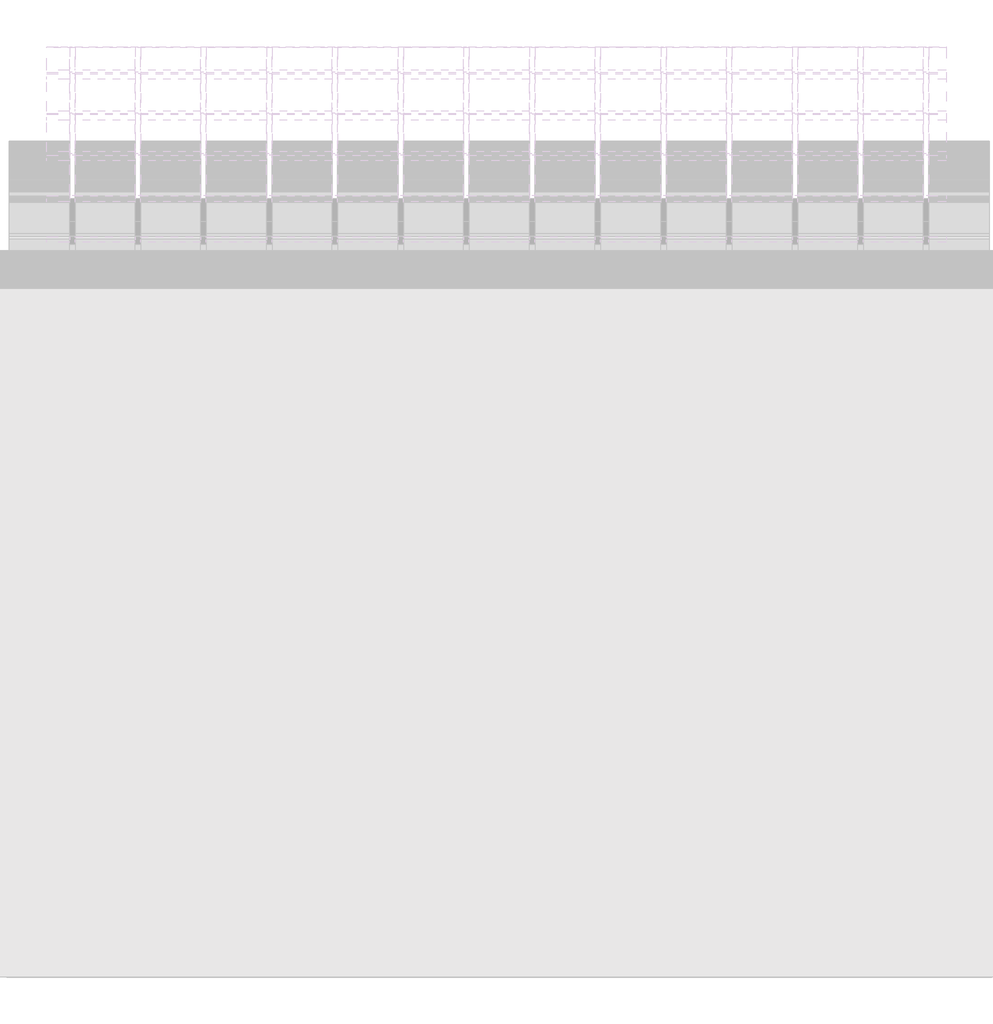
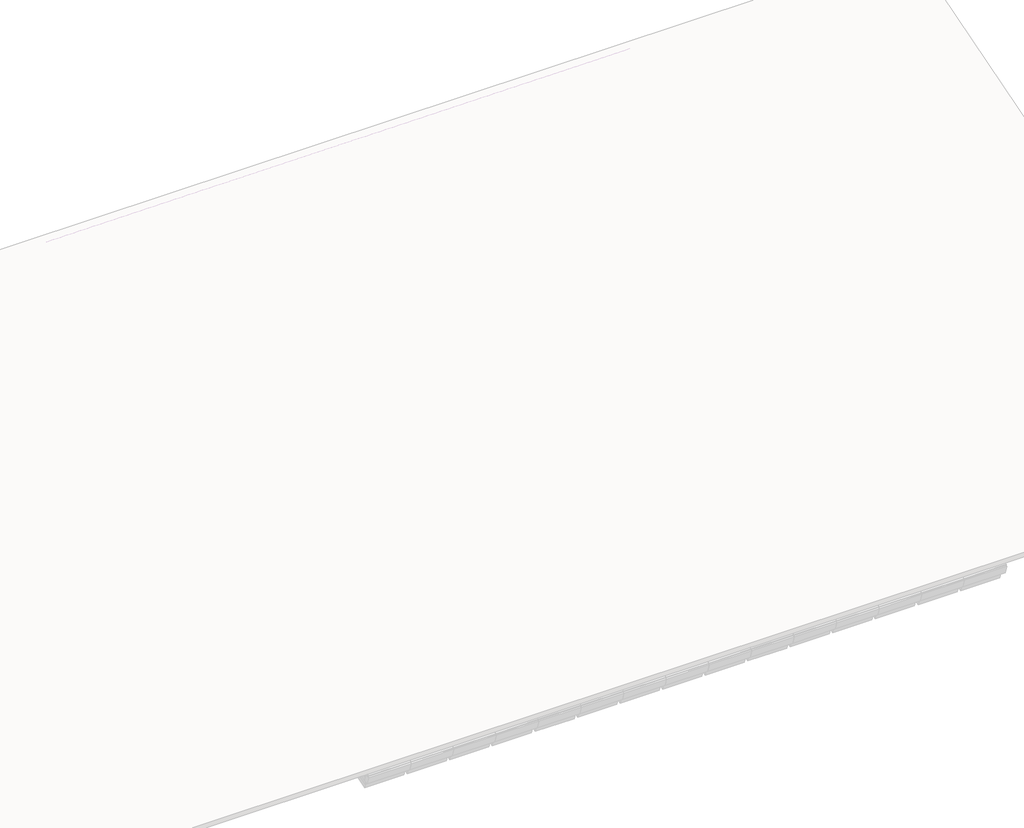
# One storey, part 45 of 57: 88 members, 36 plates.
"""IFC4 building model written with IfcOpenShell, lengths in millimetres."""

from ifc_helpers import new_model, si_unit, origin, place, context, project, spatial, transform, mapped, element, save
from components import rectangular_mullion_59984080, rectangular_mullion_2d2423ea, rectangular_mullion_caibro_e4384bba, rectangular_mullion_caibro_0993a3cf, rectangular_mullion_caibro_9bd7bc61, empty_system_panel_vazio_178faf58, empty_system_panel_vazio_2c78850d

model = new_model("IFC4")

# Units and contexts
model_context = context("Model", 3, world=origin())
ifc_project = project(units=[si_unit("LENGTHUNIT", "METRE", prefix="MILLI")], contexts=[model_context])

# Site, building, storey
site = spatial("IfcSite", under=ifc_project)
building = spatial("IfcBuilding", under=site)
storey = spatial("IfcBuildingStorey", under=building, Name="Nível 2", Elevation=4100.0)

# Members
placement = place(None, origin())
rectangular_mullion_shape = rectangular_mullion_59984080(model_context)
element("IfcMember", 1, ObjectType="Rectangular Mullion : Ripa", at=placement, inside=storey, context=model_context, shape_type="MappedRepresentation", body=[
    mapped(rectangular_mullion_shape, transform((34017.6374991, 8162.5832694, 3598.8241594), x_axis=(0.0, 0.9578262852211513, 0.2873478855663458), y_axis=(0.0, 0.2873478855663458, -0.9578262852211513), z_axis=(-1.0, 0.0, 0.0))),
])
element("IfcMember", 2, ObjectType="Rectangular Mullion : Ripa", at=placement, inside=storey, context=model_context, shape_type="MappedRepresentation", body=[
    mapped(rectangular_mullion_shape, transform((34614.6922555, 8162.5832694, 3598.8241594), x_axis=(0.0, 0.9578262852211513, 0.2873478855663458), y_axis=(0.0, 0.2873478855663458, -0.9578262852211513), z_axis=(-1.0, 0.0, 0.0))),
])
element("IfcMember", 3, ObjectType="Rectangular Mullion : Ripa", at=placement, inside=storey, context=model_context, shape_type="MappedRepresentation", body=[
    mapped(rectangular_mullion_shape, transform((35211.747012, 8162.5832694, 3598.8241594), x_axis=(0.0, 0.9578262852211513, 0.2873478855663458), y_axis=(0.0, 0.2873478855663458, -0.9578262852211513), z_axis=(-1.0, 0.0, 0.0))),
])
element("IfcMember", 4, ObjectType="Rectangular Mullion : Ripa", at=placement, inside=storey, context=model_context, shape_type="MappedRepresentation", body=[
    mapped(rectangular_mullion_shape, transform((35808.8017684, 8162.5832694, 3598.8241594), x_axis=(0.0, 0.9578262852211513, 0.2873478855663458), y_axis=(0.0, 0.2873478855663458, -0.9578262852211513), z_axis=(-1.0, 0.0, 0.0))),
])
element("IfcMember", 5, ObjectType="Rectangular Mullion : Ripa", at=placement, inside=storey, context=model_context, shape_type="MappedRepresentation", body=[
    mapped(rectangular_mullion_shape, transform((34017.6374991, 8532.7605281, 3709.877337), x_axis=(0.0, 0.9578262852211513, 0.2873478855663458), y_axis=(0.0, 0.2873478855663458, -0.9578262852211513), z_axis=(-1.0, 0.0, 0.0))),
])
element("IfcMember", 6, ObjectType="Rectangular Mullion : Ripa", at=placement, inside=storey, context=model_context, shape_type="MappedRepresentation", body=[
    mapped(rectangular_mullion_shape, transform((34614.6922555, 8532.7605281, 3709.877337), x_axis=(0.0, 0.9578262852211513, 0.2873478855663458), y_axis=(0.0, 0.2873478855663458, -0.9578262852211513), z_axis=(-1.0, 0.0, 0.0))),
])
element("IfcMember", 7, ObjectType="Rectangular Mullion : Ripa", at=placement, inside=storey, context=model_context, shape_type="MappedRepresentation", body=[
    mapped(rectangular_mullion_shape, transform((35211.747012, 8532.7605281, 3709.877337), x_axis=(0.0, 0.9578262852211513, 0.2873478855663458), y_axis=(0.0, 0.2873478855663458, -0.9578262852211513), z_axis=(-1.0, 0.0, 0.0))),
])
element("IfcMember", 8, ObjectType="Rectangular Mullion : Ripa", at=placement, inside=storey, context=model_context, shape_type="MappedRepresentation", body=[
    mapped(rectangular_mullion_shape, transform((35808.8017684, 8532.7605281, 3709.877337), x_axis=(0.0, 0.9578262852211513, 0.2873478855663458), y_axis=(0.0, 0.2873478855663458, -0.9578262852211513), z_axis=(-1.0, 0.0, 0.0))),
])
element("IfcMember", 9, ObjectType="Rectangular Mullion : Ripa", at=placement, inside=storey, context=model_context, shape_type="MappedRepresentation", body=[
    mapped(rectangular_mullion_shape, transform((34017.6374991, 8902.9377868, 3820.9305146), x_axis=(0.0, 0.9578262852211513, 0.2873478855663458), y_axis=(0.0, 0.2873478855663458, -0.9578262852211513), z_axis=(-1.0, 0.0, 0.0))),
])
element("IfcMember", 10, ObjectType="Rectangular Mullion : Ripa", at=placement, inside=storey, context=model_context, shape_type="MappedRepresentation", body=[
    mapped(rectangular_mullion_shape, transform((34614.6922555, 8902.9377868, 3820.9305146), x_axis=(0.0, 0.9578262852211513, 0.2873478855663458), y_axis=(0.0, 0.2873478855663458, -0.9578262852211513), z_axis=(-1.0, 0.0, 0.0))),
])
element("IfcMember", 11, ObjectType="Rectangular Mullion : Ripa", at=placement, inside=storey, context=model_context, shape_type="MappedRepresentation", body=[
    mapped(rectangular_mullion_shape, transform((35211.747012, 8902.9377868, 3820.9305146), x_axis=(0.0, 0.9578262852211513, 0.2873478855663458), y_axis=(0.0, 0.2873478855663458, -0.9578262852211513), z_axis=(-1.0, 0.0, 0.0))),
])
element("IfcMember", 12, ObjectType="Rectangular Mullion : Ripa", at=placement, inside=storey, context=model_context, shape_type="MappedRepresentation", body=[
    mapped(rectangular_mullion_shape, transform((35808.8017684, 8902.9377868, 3820.9305146), x_axis=(0.0, 0.9578262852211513, 0.2873478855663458), y_axis=(0.0, 0.2873478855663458, -0.9578262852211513), z_axis=(-1.0, 0.0, 0.0))),
])
element("IfcMember", 13, ObjectType="Rectangular Mullion : Ripa", at=placement, inside=storey, context=model_context, shape_type="MappedRepresentation", body=[
    mapped(rectangular_mullion_shape, transform((34017.6374991, 9273.1150454, 3931.9836922), x_axis=(0.0, 0.9578262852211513, 0.2873478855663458), y_axis=(0.0, 0.2873478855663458, -0.9578262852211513), z_axis=(-1.0, 0.0, 0.0))),
])
element("IfcMember", 14, ObjectType="Rectangular Mullion : Ripa", at=placement, inside=storey, context=model_context, shape_type="MappedRepresentation", body=[
    mapped(rectangular_mullion_shape, transform((34614.6922555, 9273.1150454, 3931.9836922), x_axis=(0.0, 0.9578262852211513, 0.2873478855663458), y_axis=(0.0, 0.2873478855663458, -0.9578262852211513), z_axis=(-1.0, 0.0, 0.0))),
])
element("IfcMember", 15, ObjectType="Rectangular Mullion : Ripa", at=placement, inside=storey, context=model_context, shape_type="MappedRepresentation", body=[
    mapped(rectangular_mullion_shape, transform((35211.747012, 9273.1150454, 3931.9836922), x_axis=(0.0, 0.9578262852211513, 0.2873478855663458), y_axis=(0.0, 0.2873478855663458, -0.9578262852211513), z_axis=(-1.0, 0.0, 0.0))),
])
element("IfcMember", 16, ObjectType="Rectangular Mullion : Ripa", at=placement, inside=storey, context=model_context, shape_type="MappedRepresentation", body=[
    mapped(rectangular_mullion_shape, transform((35808.8017684, 9273.1150454, 3931.9836922), x_axis=(0.0, 0.9578262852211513, 0.2873478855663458), y_axis=(0.0, 0.2873478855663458, -0.9578262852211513), z_axis=(-1.0, 0.0, 0.0))),
])
element("IfcMember", 17, ObjectType="Rectangular Mullion : Ripa", at=placement, inside=storey, context=model_context, shape_type="MappedRepresentation", body=[
    mapped(rectangular_mullion_shape, transform((34017.6374991, 9643.2923041, 4043.0368698), x_axis=(0.0, 0.9578262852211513, 0.2873478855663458), y_axis=(0.0, 0.2873478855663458, -0.9578262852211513), z_axis=(-1.0, 0.0, 0.0))),
])
element("IfcMember", 18, ObjectType="Rectangular Mullion : Ripa", at=placement, inside=storey, context=model_context, shape_type="MappedRepresentation", body=[
    mapped(rectangular_mullion_shape, transform((34614.6922555, 9643.2923041, 4043.0368698), x_axis=(0.0, 0.9578262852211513, 0.2873478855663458), y_axis=(0.0, 0.2873478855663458, -0.9578262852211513), z_axis=(-1.0, 0.0, 0.0))),
])
element("IfcMember", 19, ObjectType="Rectangular Mullion : Ripa", at=placement, inside=storey, context=model_context, shape_type="MappedRepresentation", body=[
    mapped(rectangular_mullion_shape, transform((35211.747012, 9643.2923041, 4043.0368698), x_axis=(0.0, 0.9578262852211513, 0.2873478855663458), y_axis=(0.0, 0.2873478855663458, -0.9578262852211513), z_axis=(-1.0, 0.0, 0.0))),
])
element("IfcMember", 20, ObjectType="Rectangular Mullion : Ripa", at=placement, inside=storey, context=model_context, shape_type="MappedRepresentation", body=[
    mapped(rectangular_mullion_shape, transform((35808.8017684, 9643.2923041, 4043.0368698), x_axis=(0.0, 0.9578262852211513, 0.2873478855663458), y_axis=(0.0, 0.2873478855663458, -0.9578262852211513), z_axis=(-1.0, 0.0, 0.0))),
])
element("IfcMember", 21, ObjectType="Rectangular Mullion : Ripa", at=placement, inside=storey, context=model_context, shape_type="MappedRepresentation", body=[
    mapped(rectangular_mullion_shape, transform((32226.4732298, 10013.4695628, 4154.0900474), x_axis=(0.0, 0.9578262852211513, 0.2873478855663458), y_axis=(0.0, 0.2873478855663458, -0.9578262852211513), z_axis=(-1.0, 0.0, 0.0))),
])
element("IfcMember", 22, ObjectType="Rectangular Mullion : Ripa", at=placement, inside=storey, context=model_context, shape_type="MappedRepresentation", body=[
    mapped(rectangular_mullion_shape, transform((32823.5279863, 10013.4695628, 4154.0900474), x_axis=(0.0, 0.9578262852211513, 0.2873478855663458), y_axis=(0.0, 0.2873478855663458, -0.9578262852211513), z_axis=(-1.0, 0.0, 0.0))),
])
element("IfcMember", 23, ObjectType="Rectangular Mullion : Ripa", at=placement, inside=storey, context=model_context, shape_type="MappedRepresentation", body=[
    mapped(rectangular_mullion_shape, transform((33420.5827427, 10013.4695628, 4154.0900474), x_axis=(0.0, 0.9578262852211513, 0.2873478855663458), y_axis=(0.0, 0.2873478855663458, -0.9578262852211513), z_axis=(-1.0, 0.0, 0.0))),
])
element("IfcMember", 24, ObjectType="Rectangular Mullion : Ripa", at=placement, inside=storey, context=model_context, shape_type="MappedRepresentation", body=[
    mapped(rectangular_mullion_shape, transform((32226.4732298, 10383.6468214, 4265.143225), x_axis=(0.0, 0.9578262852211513, 0.2873478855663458), y_axis=(0.0, 0.2873478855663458, -0.9578262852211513), z_axis=(-1.0, 0.0, 0.0))),
])
element("IfcMember", 25, ObjectType="Rectangular Mullion : Ripa", at=placement, inside=storey, context=model_context, shape_type="MappedRepresentation", body=[
    mapped(rectangular_mullion_shape, transform((32823.5279863, 10383.6468214, 4265.143225), x_axis=(0.0, 0.9578262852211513, 0.2873478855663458), y_axis=(0.0, 0.2873478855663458, -0.9578262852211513), z_axis=(-1.0, 0.0, 0.0))),
])
element("IfcMember", 26, ObjectType="Rectangular Mullion : Ripa", at=placement, inside=storey, context=model_context, shape_type="MappedRepresentation", body=[
    mapped(rectangular_mullion_shape, transform((33420.5827427, 10383.6468214, 4265.143225), x_axis=(0.0, 0.9578262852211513, 0.2873478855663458), y_axis=(0.0, 0.2873478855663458, -0.9578262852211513), z_axis=(-1.0, 0.0, 0.0))),
])
element("IfcMember", 27, ObjectType="Rectangular Mullion : Ripa", at=placement, inside=storey, context=model_context, shape_type="MappedRepresentation", body=[
    mapped(rectangular_mullion_shape, transform((32226.4732298, 10753.8240801, 4376.1964026), x_axis=(0.0, 0.9578262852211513, 0.2873478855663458), y_axis=(0.0, 0.2873478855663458, -0.9578262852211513), z_axis=(-1.0, 0.0, 0.0))),
])
element("IfcMember", 28, ObjectType="Rectangular Mullion : Ripa", at=placement, inside=storey, context=model_context, shape_type="MappedRepresentation", body=[
    mapped(rectangular_mullion_shape, transform((32823.5279863, 10753.8240801, 4376.1964026), x_axis=(0.0, 0.9578262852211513, 0.2873478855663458), y_axis=(0.0, 0.2873478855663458, -0.9578262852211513), z_axis=(-1.0, 0.0, 0.0))),
])
element("IfcMember", 29, ObjectType="Rectangular Mullion : Ripa", at=placement, inside=storey, context=model_context, shape_type="MappedRepresentation", body=[
    mapped(rectangular_mullion_shape, transform((33420.5827427, 10753.8240801, 4376.1964026), x_axis=(0.0, 0.9578262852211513, 0.2873478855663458), y_axis=(0.0, 0.2873478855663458, -0.9578262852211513), z_axis=(-1.0, 0.0, 0.0))),
])
element("IfcMember", 30, ObjectType="Rectangular Mullion : Ripa", at=placement, inside=storey, context=model_context, shape_type="MappedRepresentation", body=[
    mapped(rectangular_mullion_shape, transform((32226.4732298, 11124.0013387, 4487.2495802), x_axis=(0.0, 0.9578262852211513, 0.2873478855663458), y_axis=(0.0, 0.2873478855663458, -0.9578262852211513), z_axis=(-1.0, 0.0, 0.0))),
])
element("IfcMember", 31, ObjectType="Rectangular Mullion : Ripa", at=placement, inside=storey, context=model_context, shape_type="MappedRepresentation", body=[
    mapped(rectangular_mullion_shape, transform((32823.5279863, 11124.0013387, 4487.2495802), x_axis=(0.0, 0.9578262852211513, 0.2873478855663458), y_axis=(0.0, 0.2873478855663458, -0.9578262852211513), z_axis=(-1.0, 0.0, 0.0))),
])
element("IfcMember", 32, ObjectType="Rectangular Mullion : Ripa", at=placement, inside=storey, context=model_context, shape_type="MappedRepresentation", body=[
    mapped(rectangular_mullion_shape, transform((33420.5827427, 11124.0013387, 4487.2495802), x_axis=(0.0, 0.9578262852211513, 0.2873478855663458), y_axis=(0.0, 0.2873478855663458, -0.9578262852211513), z_axis=(-1.0, 0.0, 0.0))),
])
element("IfcMember", 33, ObjectType="Rectangular Mullion : Ripa", at=placement, inside=storey, context=model_context, shape_type="MappedRepresentation", body=[
    mapped(rectangular_mullion_shape, transform((32226.4732298, 11494.1785974, 4598.3027578), x_axis=(0.0, 0.9578262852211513, 0.2873478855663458), y_axis=(0.0, 0.2873478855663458, -0.9578262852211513), z_axis=(-1.0, 0.0, 0.0))),
])
element("IfcMember", 34, ObjectType="Rectangular Mullion : Ripa", at=placement, inside=storey, context=model_context, shape_type="MappedRepresentation", body=[
    mapped(rectangular_mullion_shape, transform((32823.5279863, 11494.1785974, 4598.3027578), x_axis=(0.0, 0.9578262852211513, 0.2873478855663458), y_axis=(0.0, 0.2873478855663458, -0.9578262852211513), z_axis=(-1.0, 0.0, 0.0))),
])
element("IfcMember", 35, ObjectType="Rectangular Mullion : Ripa", at=placement, inside=storey, context=model_context, shape_type="MappedRepresentation", body=[
    mapped(rectangular_mullion_shape, transform((33420.5827427, 11494.1785974, 4598.3027578), x_axis=(0.0, 0.9578262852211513, 0.2873478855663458), y_axis=(0.0, 0.2873478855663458, -0.9578262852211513), z_axis=(-1.0, 0.0, 0.0))),
])
element("IfcMember", 36, ObjectType="Rectangular Mullion : Ripa", at=placement, inside=storey, context=model_context, shape_type="MappedRepresentation", body=[
    mapped(rectangular_mullion_shape, transform((32226.4732298, 11864.3558561, 4709.3559354), x_axis=(0.0, 0.9578262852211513, 0.2873478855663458), y_axis=(0.0, 0.2873478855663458, -0.9578262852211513), z_axis=(-1.0, 0.0, 0.0))),
])
element("IfcMember", 37, ObjectType="Rectangular Mullion : Ripa", at=placement, inside=storey, context=model_context, shape_type="MappedRepresentation", body=[
    mapped(rectangular_mullion_shape, transform((32823.5279863, 11864.3558561, 4709.3559354), x_axis=(0.0, 0.9578262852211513, 0.2873478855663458), y_axis=(0.0, 0.2873478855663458, -0.9578262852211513), z_axis=(-1.0, 0.0, 0.0))),
])
element("IfcMember", 38, ObjectType="Rectangular Mullion : Ripa", at=placement, inside=storey, context=model_context, shape_type="MappedRepresentation", body=[
    mapped(rectangular_mullion_shape, transform((33420.5827427, 11864.3558561, 4709.3559354), x_axis=(0.0, 0.9578262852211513, 0.2873478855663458), y_axis=(0.0, 0.2873478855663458, -0.9578262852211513), z_axis=(-1.0, 0.0, 0.0))),
])
rectangular_mullion_2_shape = rectangular_mullion_2d2423ea(model_context)
element("IfcMember", 39, ObjectType="Rectangular Mullion : Terça", at=placement, inside=storey, context=model_context, shape_type="MappedRepresentation", body=[
    mapped(rectangular_mullion_2_shape, transform((34017.6374991, 9159.0196393, 3835.1132313), x_axis=(0.0, 0.9578262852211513, 0.2873478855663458), y_axis=(0.0, 0.2873478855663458, -0.9578262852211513), z_axis=(-1.0, 0.0, 0.0))),
])
element("IfcMember", 40, ObjectType="Rectangular Mullion : Terça", at=placement, inside=storey, context=model_context, shape_type="MappedRepresentation", body=[
    mapped(rectangular_mullion_2_shape, transform((34614.6922555, 9159.0196393, 3835.1132313), x_axis=(0.0, 0.9578262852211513, 0.2873478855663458), y_axis=(0.0, 0.2873478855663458, -0.9578262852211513), z_axis=(-1.0, 0.0, 0.0))),
])
element("IfcMember", 41, ObjectType="Rectangular Mullion : Terça", at=placement, inside=storey, context=model_context, shape_type="MappedRepresentation", body=[
    mapped(rectangular_mullion_2_shape, transform((35211.747012, 9159.0196393, 3835.1132313), x_axis=(0.0, 0.9578262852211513, 0.2873478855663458), y_axis=(0.0, 0.2873478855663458, -0.9578262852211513), z_axis=(-1.0, 0.0, 0.0))),
])
element("IfcMember", 42, ObjectType="Rectangular Mullion : Terça", at=placement, inside=storey, context=model_context, shape_type="MappedRepresentation", body=[
    mapped(rectangular_mullion_2_shape, transform((35808.8017684, 9159.0196393, 3835.1132313), x_axis=(0.0, 0.9578262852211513, 0.2873478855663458), y_axis=(0.0, 0.2873478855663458, -0.9578262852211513), z_axis=(-1.0, 0.0, 0.0))),
])
element("IfcMember", 43, ObjectType="Rectangular Mullion : Terça", at=placement, inside=storey, context=model_context, shape_type="MappedRepresentation", body=[
    mapped(rectangular_mullion_2_shape, transform((32226.4732298, 11285.144311, 4472.9506328), x_axis=(0.0, 0.9578262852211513, 0.2873478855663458), y_axis=(0.0, 0.2873478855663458, -0.9578262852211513), z_axis=(-1.0, 0.0, 0.0))),
])
element("IfcMember", 44, ObjectType="Rectangular Mullion : Terça", at=placement, inside=storey, context=model_context, shape_type="MappedRepresentation", body=[
    mapped(rectangular_mullion_2_shape, transform((32823.5279863, 11285.144311, 4472.9506328), x_axis=(0.0, 0.9578262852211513, 0.2873478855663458), y_axis=(0.0, 0.2873478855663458, -0.9578262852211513), z_axis=(-1.0, 0.0, 0.0))),
])
rectangular_mullion_caibro_shape = rectangular_mullion_caibro_e4384bba(model_context)
element("IfcMember", 45, ObjectType="Rectangular Mullion : Caibro", at=placement, inside=storey, context=model_context, shape_type="MappedRepresentation", body=[
    mapped(rectangular_mullion_caibro_shape, transform((32201.4732298, 10013.4695628, 4154.0900474), x_axis=(1.0, 0.0, 0.0), y_axis=(0.0, 0.287347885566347, -0.9578262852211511), z_axis=(0.0, 0.9578262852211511, 0.287347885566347))),
])
element("IfcMember", 46, ObjectType="Rectangular Mullion : Caibro", at=placement, inside=storey, context=model_context, shape_type="MappedRepresentation", body=[
    mapped(rectangular_mullion_caibro_shape, transform((32201.4732298, 10383.6468214, 4265.143225), x_axis=(1.0, 0.0, 0.0), y_axis=(0.0, 0.28734788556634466, -0.9578262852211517), z_axis=(0.0, 0.9578262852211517, 0.28734788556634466))),
])
element("IfcMember", 47, ObjectType="Rectangular Mullion : Caibro", at=placement, inside=storey, context=model_context, shape_type="MappedRepresentation", body=[
    mapped(rectangular_mullion_caibro_shape, transform((32201.4732298, 10753.8240801, 4376.1964026), x_axis=(1.0, 0.0, 0.0), y_axis=(0.0, 0.28734788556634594, -0.9578262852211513), z_axis=(0.0, 0.9578262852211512, 0.2873478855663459))),
])
element("IfcMember", 48, ObjectType="Rectangular Mullion : Caibro", at=placement, inside=storey, context=model_context, shape_type="MappedRepresentation", body=[
    mapped(rectangular_mullion_caibro_shape, transform((32201.4732298, 11124.0013387, 4487.2495802), x_axis=(1.0, 0.0, 0.0), y_axis=(0.0, 0.28734788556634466, -0.9578262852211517), z_axis=(0.0, 0.9578262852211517, 0.28734788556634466))),
])
element("IfcMember", 49, ObjectType="Rectangular Mullion : Caibro", at=placement, inside=storey, context=model_context, shape_type="MappedRepresentation", body=[
    mapped(rectangular_mullion_caibro_shape, transform((32201.4732298, 11494.1785974, 4598.3027578), x_axis=(1.0, 0.0, 0.0), y_axis=(0.0, 0.287347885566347, -0.9578262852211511), z_axis=(0.0, 0.9578262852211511, 0.287347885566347))),
])
element("IfcMember", 50, ObjectType="Rectangular Mullion : Caibro", at=placement, inside=storey, context=model_context, shape_type="MappedRepresentation", body=[
    mapped(rectangular_mullion_caibro_shape, transform((32201.4732298, 11864.3558561, 4709.3559354), x_axis=(1.0, 0.0, 0.0), y_axis=(0.0, 0.28734788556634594, -0.9578262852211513), z_axis=(0.0, 0.9578262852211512, 0.2873478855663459))),
])
element("IfcMember", 51, ObjectType="Rectangular Mullion : Caibro", at=placement, inside=storey, context=model_context, shape_type="MappedRepresentation", body=[
    mapped(rectangular_mullion_caibro_shape, transform((32798.5279863, 10013.4695628, 4154.0900474), x_axis=(1.0, 0.0, 0.0), y_axis=(0.0, 0.287347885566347, -0.9578262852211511), z_axis=(0.0, 0.9578262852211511, 0.287347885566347))),
])
element("IfcMember", 52, ObjectType="Rectangular Mullion : Caibro", at=placement, inside=storey, context=model_context, shape_type="MappedRepresentation", body=[
    mapped(rectangular_mullion_caibro_shape, transform((32798.5279863, 10383.6468214, 4265.143225), x_axis=(1.0, 0.0, 0.0), y_axis=(0.0, 0.28734788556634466, -0.9578262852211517), z_axis=(0.0, 0.9578262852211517, 0.28734788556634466))),
])
element("IfcMember", 53, ObjectType="Rectangular Mullion : Caibro", at=placement, inside=storey, context=model_context, shape_type="MappedRepresentation", body=[
    mapped(rectangular_mullion_caibro_shape, transform((32798.5279863, 10753.8240801, 4376.1964026), x_axis=(1.0, 0.0, 0.0), y_axis=(0.0, 0.28734788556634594, -0.9578262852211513), z_axis=(0.0, 0.9578262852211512, 0.2873478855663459))),
])
element("IfcMember", 54, ObjectType="Rectangular Mullion : Caibro", at=placement, inside=storey, context=model_context, shape_type="MappedRepresentation", body=[
    mapped(rectangular_mullion_caibro_shape, transform((32798.5279863, 11124.0013387, 4487.2495802), x_axis=(1.0, 0.0, 0.0), y_axis=(0.0, 0.28734788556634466, -0.9578262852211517), z_axis=(0.0, 0.9578262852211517, 0.28734788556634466))),
])
element("IfcMember", 55, ObjectType="Rectangular Mullion : Caibro", at=placement, inside=storey, context=model_context, shape_type="MappedRepresentation", body=[
    mapped(rectangular_mullion_caibro_shape, transform((32798.5279863, 11494.1785974, 4598.3027578), x_axis=(1.0, 0.0, 0.0), y_axis=(0.0, 0.287347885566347, -0.9578262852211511), z_axis=(0.0, 0.9578262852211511, 0.287347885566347))),
])
element("IfcMember", 56, ObjectType="Rectangular Mullion : Caibro", at=placement, inside=storey, context=model_context, shape_type="MappedRepresentation", body=[
    mapped(rectangular_mullion_caibro_shape, transform((32798.5279863, 11864.3558561, 4709.3559354), x_axis=(1.0, 0.0, 0.0), y_axis=(0.0, 0.28734788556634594, -0.9578262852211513), z_axis=(0.0, 0.9578262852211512, 0.2873478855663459))),
])
element("IfcMember", 57, ObjectType="Rectangular Mullion : Caibro", at=placement, inside=storey, context=model_context, shape_type="MappedRepresentation", body=[
    mapped(rectangular_mullion_caibro_shape, transform((33395.5827427, 10013.4695628, 4154.0900474), x_axis=(1.0, 0.0, 0.0), y_axis=(0.0, 0.28734788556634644, -0.9578262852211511), z_axis=(0.0, 0.957826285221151, 0.2873478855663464))),
])
element("IfcMember", 58, ObjectType="Rectangular Mullion : Caibro", at=placement, inside=storey, context=model_context, shape_type="MappedRepresentation", body=[
    mapped(rectangular_mullion_caibro_shape, transform((33395.5827427, 10383.6468214, 4265.143225), x_axis=(1.0, 0.0, 0.0), y_axis=(0.0, 0.28734788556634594, -0.9578262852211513), z_axis=(0.0, 0.9578262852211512, 0.2873478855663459))),
])
element("IfcMember", 59, ObjectType="Rectangular Mullion : Caibro", at=placement, inside=storey, context=model_context, shape_type="MappedRepresentation", body=[
    mapped(rectangular_mullion_caibro_shape, transform((33395.5827427, 10753.8240801, 4376.1964026), x_axis=(1.0, 0.0, 0.0), y_axis=(0.0, 0.28734788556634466, -0.9578262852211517), z_axis=(0.0, 0.9578262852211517, 0.28734788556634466))),
])
element("IfcMember", 60, ObjectType="Rectangular Mullion : Caibro", at=placement, inside=storey, context=model_context, shape_type="MappedRepresentation", body=[
    mapped(rectangular_mullion_caibro_shape, transform((33395.5827427, 11124.0013387, 4487.2495802), x_axis=(1.0, 0.0, 0.0), y_axis=(0.0, 0.2873478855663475, -0.9578262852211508), z_axis=(0.0, 0.9578262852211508, 0.2873478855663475))),
])
element("IfcMember", 61, ObjectType="Rectangular Mullion : Caibro", at=placement, inside=storey, context=model_context, shape_type="MappedRepresentation", body=[
    mapped(rectangular_mullion_caibro_shape, transform((33395.5827427, 11494.1785974, 4598.3027578), x_axis=(1.0, 0.0, 0.0), y_axis=(0.0, 0.28734788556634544, -0.9578262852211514), z_axis=(0.0, 0.9578262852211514, 0.28734788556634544))),
])
element("IfcMember", 62, ObjectType="Rectangular Mullion : Caibro", at=placement, inside=storey, context=model_context, shape_type="MappedRepresentation", body=[
    mapped(rectangular_mullion_caibro_shape, transform((33395.5827427, 11864.3558561, 4709.3559354), x_axis=(1.0, 0.0, 0.0), y_axis=(0.0, 0.28734788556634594, -0.9578262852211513), z_axis=(0.0, 0.9578262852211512, 0.2873478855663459))),
])
element("IfcMember", 63, ObjectType="Rectangular Mullion : Caibro", at=placement, inside=storey, context=model_context, shape_type="MappedRepresentation", body=[
    mapped(rectangular_mullion_caibro_shape, transform((33992.6374991, 10013.4695628, 4154.0900474), x_axis=(1.0, 0.0, 0.0), y_axis=(0.0, 0.28734788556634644, -0.9578262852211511), z_axis=(0.0, 0.957826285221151, 0.2873478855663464))),
])
element("IfcMember", 64, ObjectType="Rectangular Mullion : Caibro", at=placement, inside=storey, context=model_context, shape_type="MappedRepresentation", body=[
    mapped(rectangular_mullion_caibro_shape, transform((33992.6374991, 10383.6468214, 4265.143225), x_axis=(1.0, 0.0, 0.0), y_axis=(0.0, 0.28734788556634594, -0.9578262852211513), z_axis=(0.0, 0.9578262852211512, 0.2873478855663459))),
])
element("IfcMember", 65, ObjectType="Rectangular Mullion : Caibro", at=placement, inside=storey, context=model_context, shape_type="MappedRepresentation", body=[
    mapped(rectangular_mullion_caibro_shape, transform((33992.6374991, 10753.8240801, 4376.1964026), x_axis=(1.0, 0.0, 0.0), y_axis=(0.0, 0.28734788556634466, -0.9578262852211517), z_axis=(0.0, 0.9578262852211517, 0.28734788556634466))),
])
element("IfcMember", 66, ObjectType="Rectangular Mullion : Caibro", at=placement, inside=storey, context=model_context, shape_type="MappedRepresentation", body=[
    mapped(rectangular_mullion_caibro_shape, transform((33992.6374991, 11124.0013387, 4487.2495802), x_axis=(1.0, 0.0, 0.0), y_axis=(0.0, 0.2873478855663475, -0.9578262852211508), z_axis=(0.0, 0.9578262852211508, 0.2873478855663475))),
])
element("IfcMember", 67, ObjectType="Rectangular Mullion : Caibro", at=placement, inside=storey, context=model_context, shape_type="MappedRepresentation", body=[
    mapped(rectangular_mullion_caibro_shape, transform((33992.6374991, 11494.1785974, 4598.3027578), x_axis=(1.0, 0.0, 0.0), y_axis=(0.0, 0.28734788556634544, -0.9578262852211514), z_axis=(0.0, 0.9578262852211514, 0.28734788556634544))),
])
element("IfcMember", 68, ObjectType="Rectangular Mullion : Caibro", at=placement, inside=storey, context=model_context, shape_type="MappedRepresentation", body=[
    mapped(rectangular_mullion_caibro_shape, transform((33992.6374991, 11864.3558561, 4709.3559354), x_axis=(1.0, 0.0, 0.0), y_axis=(0.0, 0.28734788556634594, -0.9578262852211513), z_axis=(0.0, 0.9578262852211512, 0.2873478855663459))),
])
element("IfcMember", 69, ObjectType="Rectangular Mullion : Caibro", at=placement, inside=storey, context=model_context, shape_type="MappedRepresentation", body=[
    mapped(rectangular_mullion_caibro_shape, transform((34589.6922555, 8162.5832694, 3598.8241594), x_axis=(1.0, 0.0, 0.0), y_axis=(0.0, 0.28734788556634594, -0.9578262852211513), z_axis=(0.0, 0.9578262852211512, 0.2873478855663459))),
])
element("IfcMember", 70, ObjectType="Rectangular Mullion : Caibro", at=placement, inside=storey, context=model_context, shape_type="MappedRepresentation", body=[
    mapped(rectangular_mullion_caibro_shape, transform((34589.6922555, 8532.7605281, 3709.877337), x_axis=(1.0, 0.0, 0.0), y_axis=(0.0, 0.2873478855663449, -0.9578262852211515), z_axis=(0.0, 0.9578262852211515, 0.2873478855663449))),
])
element("IfcMember", 71, ObjectType="Rectangular Mullion : Caibro", at=placement, inside=storey, context=model_context, shape_type="MappedRepresentation", body=[
    mapped(rectangular_mullion_caibro_shape, transform((34589.6922555, 8902.9377868, 3820.9305146), x_axis=(1.0, 0.0, 0.0), y_axis=(0.0, 0.2873478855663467, -0.9578262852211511), z_axis=(0.0, 0.9578262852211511, 0.2873478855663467))),
])
element("IfcMember", 72, ObjectType="Rectangular Mullion : Caibro", at=placement, inside=storey, context=model_context, shape_type="MappedRepresentation", body=[
    mapped(rectangular_mullion_caibro_shape, transform((34589.6922555, 9273.1150454, 3931.9836922), x_axis=(1.0, 0.0, 0.0), y_axis=(0.0, 0.2873478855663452, -0.9578262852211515), z_axis=(0.0, 0.9578262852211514, 0.28734788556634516))),
])
element("IfcMember", 73, ObjectType="Rectangular Mullion : Caibro", at=placement, inside=storey, context=model_context, shape_type="MappedRepresentation", body=[
    mapped(rectangular_mullion_caibro_shape, transform((34589.6922555, 9643.2923041, 4043.0368698), x_axis=(1.0, 0.0, 0.0), y_axis=(0.0, 0.2873478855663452, -0.9578262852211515), z_axis=(0.0, 0.9578262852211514, 0.28734788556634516))),
])
element("IfcMember", 74, ObjectType="Rectangular Mullion : Caibro", at=placement, inside=storey, context=model_context, shape_type="MappedRepresentation", body=[
    mapped(rectangular_mullion_caibro_shape, transform((35186.747012, 8162.5832694, 3598.8241594), x_axis=(1.0, 0.0, 0.0), y_axis=(0.0, 0.28734788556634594, -0.9578262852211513), z_axis=(0.0, 0.9578262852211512, 0.2873478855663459))),
])
element("IfcMember", 75, ObjectType="Rectangular Mullion : Caibro", at=placement, inside=storey, context=model_context, shape_type="MappedRepresentation", body=[
    mapped(rectangular_mullion_caibro_shape, transform((35186.747012, 8532.7605281, 3709.877337), x_axis=(1.0, 0.0, 0.0), y_axis=(0.0, 0.2873478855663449, -0.9578262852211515), z_axis=(0.0, 0.9578262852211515, 0.2873478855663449))),
])
element("IfcMember", 76, ObjectType="Rectangular Mullion : Caibro", at=placement, inside=storey, context=model_context, shape_type="MappedRepresentation", body=[
    mapped(rectangular_mullion_caibro_shape, transform((35186.747012, 8902.9377868, 3820.9305146), x_axis=(1.0, 0.0, 0.0), y_axis=(0.0, 0.2873478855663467, -0.9578262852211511), z_axis=(0.0, 0.9578262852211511, 0.2873478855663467))),
])
element("IfcMember", 77, ObjectType="Rectangular Mullion : Caibro", at=placement, inside=storey, context=model_context, shape_type="MappedRepresentation", body=[
    mapped(rectangular_mullion_caibro_shape, transform((35186.747012, 9273.1150454, 3931.9836922), x_axis=(1.0, 0.0, 0.0), y_axis=(0.0, 0.2873478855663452, -0.9578262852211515), z_axis=(0.0, 0.9578262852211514, 0.28734788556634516))),
])
element("IfcMember", 78, ObjectType="Rectangular Mullion : Caibro", at=placement, inside=storey, context=model_context, shape_type="MappedRepresentation", body=[
    mapped(rectangular_mullion_caibro_shape, transform((35186.747012, 9643.2923041, 4043.0368698), x_axis=(1.0, 0.0, 0.0), y_axis=(0.0, 0.2873478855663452, -0.9578262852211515), z_axis=(0.0, 0.9578262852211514, 0.28734788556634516))),
])
element("IfcMember", 79, ObjectType="Rectangular Mullion : Caibro", at=placement, inside=storey, context=model_context, shape_type="MappedRepresentation", body=[
    mapped(rectangular_mullion_caibro_shape, transform((35783.8017684, 8162.5832694, 3598.8241594), x_axis=(1.0, 0.0, 0.0), y_axis=(0.0, 0.28734788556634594, -0.9578262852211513), z_axis=(0.0, 0.9578262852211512, 0.2873478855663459))),
])
element("IfcMember", 80, ObjectType="Rectangular Mullion : Caibro", at=placement, inside=storey, context=model_context, shape_type="MappedRepresentation", body=[
    mapped(rectangular_mullion_caibro_shape, transform((35783.8017684, 8532.7605281, 3709.877337), x_axis=(1.0, 0.0, 0.0), y_axis=(0.0, 0.2873478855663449, -0.9578262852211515), z_axis=(0.0, 0.9578262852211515, 0.2873478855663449))),
])
element("IfcMember", 81, ObjectType="Rectangular Mullion : Caibro", at=placement, inside=storey, context=model_context, shape_type="MappedRepresentation", body=[
    mapped(rectangular_mullion_caibro_shape, transform((35783.8017684, 8902.9377868, 3820.9305146), x_axis=(1.0, 0.0, 0.0), y_axis=(0.0, 0.2873478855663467, -0.9578262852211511), z_axis=(0.0, 0.9578262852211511, 0.2873478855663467))),
])
element("IfcMember", 82, ObjectType="Rectangular Mullion : Caibro", at=placement, inside=storey, context=model_context, shape_type="MappedRepresentation", body=[
    mapped(rectangular_mullion_caibro_shape, transform((35783.8017684, 9273.1150454, 3931.9836922), x_axis=(1.0, 0.0, 0.0), y_axis=(0.0, 0.2873478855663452, -0.9578262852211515), z_axis=(0.0, 0.9578262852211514, 0.28734788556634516))),
])
element("IfcMember", 83, ObjectType="Rectangular Mullion : Caibro", at=placement, inside=storey, context=model_context, shape_type="MappedRepresentation", body=[
    mapped(rectangular_mullion_caibro_shape, transform((35783.8017684, 9643.2923041, 4043.0368698), x_axis=(1.0, 0.0, 0.0), y_axis=(0.0, 0.2873478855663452, -0.9578262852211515), z_axis=(0.0, 0.9578262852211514, 0.28734788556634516))),
])
rectangular_mullion_caibro_2_shape = rectangular_mullion_caibro_0993a3cf(model_context)
element("IfcMember", 84, ObjectType="Rectangular Mullion : Caibro", at=placement, inside=storey, context=model_context, shape_type="MappedRepresentation", body=[
    mapped(rectangular_mullion_caibro_2_shape, transform((34589.6922555, 9159.0196393, 3835.1132313), x_axis=(1.0, 0.0, 0.0), y_axis=(0.0, 0.2873478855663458, -0.9578262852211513), z_axis=(0.0, 0.9578262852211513, 0.2873478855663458))),
])
element("IfcMember", 85, ObjectType="Rectangular Mullion : Caibro", at=placement, inside=storey, context=model_context, shape_type="MappedRepresentation", body=[
    mapped(rectangular_mullion_caibro_2_shape, transform((35186.747012, 9159.0196393, 3835.1132313), x_axis=(1.0, 0.0, 0.0), y_axis=(0.0, 0.2873478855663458, -0.9578262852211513), z_axis=(0.0, 0.9578262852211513, 0.2873478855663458))),
])
element("IfcMember", 86, ObjectType="Rectangular Mullion : Caibro", at=placement, inside=storey, context=model_context, shape_type="MappedRepresentation", body=[
    mapped(rectangular_mullion_caibro_2_shape, transform((35783.8017684, 9159.0196393, 3835.1132313), x_axis=(1.0, 0.0, 0.0), y_axis=(0.0, 0.2873478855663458, -0.9578262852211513), z_axis=(0.0, 0.9578262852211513, 0.2873478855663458))),
])
rectangular_mullion_caibro_3_shape = rectangular_mullion_caibro_9bd7bc61(model_context)
element("IfcMember", 87, ObjectType="Rectangular Mullion : Caibro", at=placement, inside=storey, context=model_context, shape_type="MappedRepresentation", body=[
    mapped(rectangular_mullion_caibro_3_shape, transform((32201.4732298, 11285.144311, 4472.9506328), x_axis=(1.0, 0.0, 0.0), y_axis=(0.0, 0.28734788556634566, -0.9578262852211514), z_axis=(0.0, 0.9578262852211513, 0.2873478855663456))),
])
element("IfcMember", 88, ObjectType="Rectangular Mullion : Caibro", at=placement, inside=storey, context=model_context, shape_type="MappedRepresentation", body=[
    mapped(rectangular_mullion_caibro_3_shape, transform((32798.5279863, 11285.144311, 4472.9506328), x_axis=(1.0, 0.0, 0.0), y_axis=(0.0, 0.28734788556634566, -0.9578262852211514), z_axis=(0.0, 0.9578262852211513, 0.2873478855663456))),
])

# Plates
empty_system_panel_vazio_shape = empty_system_panel_vazio_178faf58(model_context)
element("IfcPlate", 89, ObjectType="Empty System Panel : Vazio", at=placement, inside=storey, context=model_context, shape_type="MappedRepresentation", body=[
    mapped(empty_system_panel_vazio_shape, transform((35485.2743902, 8162.5832694, 3598.8241594), x_axis=(1.0, 0.0, 0.0), y_axis=(0.0, 0.2873478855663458, -0.9578262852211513), z_axis=(0.0, 0.9578262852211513, 0.2873478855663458))),
])
element("IfcPlate", 90, ObjectType="Empty System Panel : Vazio", at=placement, inside=storey, context=model_context, shape_type="MappedRepresentation", body=[
    mapped(empty_system_panel_vazio_shape, transform((34888.2196337, 8532.7605281, 3709.877337), x_axis=(1.0, 0.0, 0.0), y_axis=(0.0, 0.2873478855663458, -0.9578262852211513), z_axis=(0.0, 0.9578262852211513, 0.2873478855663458))),
])
element("IfcPlate", 91, ObjectType="Empty System Panel : Vazio", at=placement, inside=storey, context=model_context, shape_type="MappedRepresentation", body=[
    mapped(empty_system_panel_vazio_shape, transform((35485.2743902, 8532.7605281, 3709.877337), x_axis=(1.0, 0.0, 0.0), y_axis=(0.0, 0.2873478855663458, -0.9578262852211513), z_axis=(0.0, 0.9578262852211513, 0.2873478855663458))),
])
element("IfcPlate", 92, ObjectType="Empty System Panel : Vazio", at=placement, inside=storey, context=model_context, shape_type="MappedRepresentation", body=[
    mapped(empty_system_panel_vazio_shape, transform((34291.1648773, 8902.9377868, 3820.9305146), x_axis=(1.0, 0.0, 0.0), y_axis=(0.0, 0.2873478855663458, -0.9578262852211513), z_axis=(0.0, 0.9578262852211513, 0.2873478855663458))),
])
element("IfcPlate", 93, ObjectType="Empty System Panel : Vazio", at=placement, inside=storey, context=model_context, shape_type="MappedRepresentation", body=[
    mapped(empty_system_panel_vazio_shape, transform((34888.2196337, 8902.9377868, 3820.9305146), x_axis=(1.0, 0.0, 0.0), y_axis=(0.0, 0.2873478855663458, -0.9578262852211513), z_axis=(0.0, 0.9578262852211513, 0.2873478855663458))),
])
element("IfcPlate", 94, ObjectType="Empty System Panel : Vazio", at=placement, inside=storey, context=model_context, shape_type="MappedRepresentation", body=[
    mapped(empty_system_panel_vazio_shape, transform((35485.2743902, 8902.9377868, 3820.9305146), x_axis=(1.0, 0.0, 0.0), y_axis=(0.0, 0.2873478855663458, -0.9578262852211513), z_axis=(0.0, 0.9578262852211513, 0.2873478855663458))),
])
element("IfcPlate", 95, ObjectType="Empty System Panel : Vazio", at=placement, inside=storey, context=model_context, shape_type="MappedRepresentation", body=[
    mapped(empty_system_panel_vazio_shape, transform((34291.1648773, 9273.1150454, 3931.9836922), x_axis=(1.0, 0.0, 0.0), y_axis=(0.0, 0.2873478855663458, -0.9578262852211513), z_axis=(0.0, 0.9578262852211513, 0.2873478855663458))),
])
element("IfcPlate", 96, ObjectType="Empty System Panel : Vazio", at=placement, inside=storey, context=model_context, shape_type="MappedRepresentation", body=[
    mapped(empty_system_panel_vazio_shape, transform((34888.2196337, 9273.1150454, 3931.9836922), x_axis=(1.0, 0.0, 0.0), y_axis=(0.0, 0.2873478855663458, -0.9578262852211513), z_axis=(0.0, 0.9578262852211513, 0.2873478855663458))),
])
element("IfcPlate", 97, ObjectType="Empty System Panel : Vazio", at=placement, inside=storey, context=model_context, shape_type="MappedRepresentation", body=[
    mapped(empty_system_panel_vazio_shape, transform((35485.2743902, 9273.1150454, 3931.9836922), x_axis=(1.0, 0.0, 0.0), y_axis=(0.0, 0.2873478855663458, -0.9578262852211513), z_axis=(0.0, 0.9578262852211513, 0.2873478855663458))),
])
element("IfcPlate", 98, ObjectType="Empty System Panel : Vazio", at=placement, inside=storey, context=model_context, shape_type="MappedRepresentation", body=[
    mapped(empty_system_panel_vazio_shape, transform((34291.1648773, 9643.2923041, 4043.0368698), x_axis=(1.0, 0.0, 0.0), y_axis=(0.0, 0.2873478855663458, -0.9578262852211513), z_axis=(0.0, 0.9578262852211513, 0.2873478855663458))),
])
element("IfcPlate", 99, ObjectType="Empty System Panel : Vazio", at=placement, inside=storey, context=model_context, shape_type="MappedRepresentation", body=[
    mapped(empty_system_panel_vazio_shape, transform((34888.2196337, 9643.2923041, 4043.0368698), x_axis=(1.0, 0.0, 0.0), y_axis=(0.0, 0.2873478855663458, -0.9578262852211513), z_axis=(0.0, 0.9578262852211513, 0.2873478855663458))),
])
element("IfcPlate", 100, ObjectType="Empty System Panel : Vazio", at=placement, inside=storey, context=model_context, shape_type="MappedRepresentation", body=[
    mapped(empty_system_panel_vazio_shape, transform((35485.2743902, 9643.2923041, 4043.0368698), x_axis=(1.0, 0.0, 0.0), y_axis=(0.0, 0.2873478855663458, -0.9578262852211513), z_axis=(0.0, 0.9578262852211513, 0.2873478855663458))),
])
element("IfcPlate", 101, ObjectType="Empty System Panel : Vazio", at=placement, inside=storey, context=model_context, shape_type="MappedRepresentation", body=[
    mapped(empty_system_panel_vazio_shape, transform((32500.000608, 10013.4695628, 4154.0900474), x_axis=(1.0, 0.0, 0.0), y_axis=(0.0, 0.2873478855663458, -0.9578262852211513), z_axis=(0.0, 0.9578262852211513, 0.2873478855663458))),
])
element("IfcPlate", 102, ObjectType="Empty System Panel : Vazio", at=placement, inside=storey, context=model_context, shape_type="MappedRepresentation", body=[
    mapped(empty_system_panel_vazio_shape, transform((33097.0553645, 10013.4695628, 4154.0900474), x_axis=(1.0, 0.0, 0.0), y_axis=(0.0, 0.2873478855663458, -0.9578262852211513), z_axis=(0.0, 0.9578262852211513, 0.2873478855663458))),
])
element("IfcPlate", 103, ObjectType="Empty System Panel : Vazio", at=placement, inside=storey, context=model_context, shape_type="MappedRepresentation", body=[
    mapped(empty_system_panel_vazio_shape, transform((33694.1101209, 10013.4695628, 4154.0900474), x_axis=(1.0, 0.0, 0.0), y_axis=(0.0, 0.2873478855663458, -0.9578262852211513), z_axis=(0.0, 0.9578262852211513, 0.2873478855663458))),
])
element("IfcPlate", 104, ObjectType="Empty System Panel : Vazio", at=placement, inside=storey, context=model_context, shape_type="MappedRepresentation", body=[
    mapped(empty_system_panel_vazio_shape, transform((32500.000608, 10383.6468214, 4265.143225), x_axis=(1.0, 0.0, 0.0), y_axis=(0.0, 0.2873478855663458, -0.9578262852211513), z_axis=(0.0, 0.9578262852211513, 0.2873478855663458))),
])
element("IfcPlate", 105, ObjectType="Empty System Panel : Vazio", at=placement, inside=storey, context=model_context, shape_type="MappedRepresentation", body=[
    mapped(empty_system_panel_vazio_shape, transform((33097.0553645, 10383.6468214, 4265.143225), x_axis=(1.0, 0.0, 0.0), y_axis=(0.0, 0.2873478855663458, -0.9578262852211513), z_axis=(0.0, 0.9578262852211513, 0.2873478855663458))),
])
element("IfcPlate", 106, ObjectType="Empty System Panel : Vazio", at=placement, inside=storey, context=model_context, shape_type="MappedRepresentation", body=[
    mapped(empty_system_panel_vazio_shape, transform((33694.1101209, 10383.6468214, 4265.143225), x_axis=(1.0, 0.0, 0.0), y_axis=(0.0, 0.2873478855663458, -0.9578262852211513), z_axis=(0.0, 0.9578262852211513, 0.2873478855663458))),
])
element("IfcPlate", 107, ObjectType="Empty System Panel : Vazio", at=placement, inside=storey, context=model_context, shape_type="MappedRepresentation", body=[
    mapped(empty_system_panel_vazio_shape, transform((32500.000608, 10753.8240801, 4376.1964026), x_axis=(1.0, 0.0, 0.0), y_axis=(0.0, 0.2873478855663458, -0.9578262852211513), z_axis=(0.0, 0.9578262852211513, 0.2873478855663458))),
])
element("IfcPlate", 108, ObjectType="Empty System Panel : Vazio", at=placement, inside=storey, context=model_context, shape_type="MappedRepresentation", body=[
    mapped(empty_system_panel_vazio_shape, transform((33097.0553645, 10753.8240801, 4376.1964026), x_axis=(1.0, 0.0, 0.0), y_axis=(0.0, 0.2873478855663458, -0.9578262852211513), z_axis=(0.0, 0.9578262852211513, 0.2873478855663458))),
])
element("IfcPlate", 109, ObjectType="Empty System Panel : Vazio", at=placement, inside=storey, context=model_context, shape_type="MappedRepresentation", body=[
    mapped(empty_system_panel_vazio_shape, transform((33694.1101209, 10753.8240801, 4376.1964026), x_axis=(1.0, 0.0, 0.0), y_axis=(0.0, 0.2873478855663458, -0.9578262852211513), z_axis=(0.0, 0.9578262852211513, 0.2873478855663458))),
])
element("IfcPlate", 110, ObjectType="Empty System Panel : Vazio", at=placement, inside=storey, context=model_context, shape_type="MappedRepresentation", body=[
    mapped(empty_system_panel_vazio_shape, transform((32500.000608, 11124.0013387, 4487.2495802), x_axis=(1.0, 0.0, 0.0), y_axis=(0.0, 0.2873478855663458, -0.9578262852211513), z_axis=(0.0, 0.9578262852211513, 0.2873478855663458))),
])
element("IfcPlate", 111, ObjectType="Empty System Panel : Vazio", at=placement, inside=storey, context=model_context, shape_type="MappedRepresentation", body=[
    mapped(empty_system_panel_vazio_shape, transform((33097.0553645, 11124.0013387, 4487.2495802), x_axis=(1.0, 0.0, 0.0), y_axis=(0.0, 0.2873478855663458, -0.9578262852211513), z_axis=(0.0, 0.9578262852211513, 0.2873478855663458))),
])
element("IfcPlate", 112, ObjectType="Empty System Panel : Vazio", at=placement, inside=storey, context=model_context, shape_type="MappedRepresentation", body=[
    mapped(empty_system_panel_vazio_shape, transform((33694.1101209, 11124.0013387, 4487.2495802), x_axis=(1.0, 0.0, 0.0), y_axis=(0.0, 0.2873478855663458, -0.9578262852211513), z_axis=(0.0, 0.9578262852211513, 0.2873478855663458))),
])
element("IfcPlate", 113, ObjectType="Empty System Panel : Vazio", at=placement, inside=storey, context=model_context, shape_type="MappedRepresentation", body=[
    mapped(empty_system_panel_vazio_shape, transform((32500.000608, 11494.1785974, 4598.3027578), x_axis=(1.0, 0.0, 0.0), y_axis=(0.0, 0.2873478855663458, -0.9578262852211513), z_axis=(0.0, 0.9578262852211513, 0.2873478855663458))),
])
element("IfcPlate", 114, ObjectType="Empty System Panel : Vazio", at=placement, inside=storey, context=model_context, shape_type="MappedRepresentation", body=[
    mapped(empty_system_panel_vazio_shape, transform((33097.0553645, 11494.1785974, 4598.3027578), x_axis=(1.0, 0.0, 0.0), y_axis=(0.0, 0.2873478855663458, -0.9578262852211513), z_axis=(0.0, 0.9578262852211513, 0.2873478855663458))),
])
element("IfcPlate", 115, ObjectType="Empty System Panel : Vazio", at=placement, inside=storey, context=model_context, shape_type="MappedRepresentation", body=[
    mapped(empty_system_panel_vazio_shape, transform((33694.1101209, 11494.1785974, 4598.3027578), x_axis=(1.0, 0.0, 0.0), y_axis=(0.0, 0.2873478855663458, -0.9578262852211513), z_axis=(0.0, 0.9578262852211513, 0.2873478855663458))),
])
element("IfcPlate", 116, ObjectType="Empty System Panel : Vazio", at=placement, inside=storey, context=model_context, shape_type="MappedRepresentation", body=[
    mapped(empty_system_panel_vazio_shape, transform((32500.000608, 11864.3558561, 4709.3559354), x_axis=(1.0, 0.0, 0.0), y_axis=(0.0, 0.2873478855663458, -0.9578262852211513), z_axis=(0.0, 0.9578262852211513, 0.2873478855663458))),
])
element("IfcPlate", 117, ObjectType="Empty System Panel : Vazio", at=placement, inside=storey, context=model_context, shape_type="MappedRepresentation", body=[
    mapped(empty_system_panel_vazio_shape, transform((33097.0553645, 11864.3558561, 4709.3559354), x_axis=(1.0, 0.0, 0.0), y_axis=(0.0, 0.2873478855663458, -0.9578262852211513), z_axis=(0.0, 0.9578262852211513, 0.2873478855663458))),
])
element("IfcPlate", 118, ObjectType="Empty System Panel : Vazio", at=placement, inside=storey, context=model_context, shape_type="MappedRepresentation", body=[
    mapped(empty_system_panel_vazio_shape, transform((33694.1101209, 11864.3558561, 4709.3559354), x_axis=(1.0, 0.0, 0.0), y_axis=(0.0, 0.2873478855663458, -0.9578262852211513), z_axis=(0.0, 0.9578262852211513, 0.2873478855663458))),
])
empty_system_panel_vazio_2_shape = empty_system_panel_vazio_2c78850d(model_context)
element("IfcPlate", 119, ObjectType="Empty System Panel : Vazio", at=placement, inside=storey, context=model_context, shape_type="MappedRepresentation", body=[
    mapped(empty_system_panel_vazio_2_shape, transform((34291.1648773, 9187.7544279, 3843.7336679), x_axis=(1.0, 0.0, 0.0), y_axis=(0.0, 0.2873478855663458, -0.9578262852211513), z_axis=(0.0, 0.9578262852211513, 0.2873478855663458))),
])
element("IfcPlate", 120, ObjectType="Empty System Panel : Vazio", at=placement, inside=storey, context=model_context, shape_type="MappedRepresentation", body=[
    mapped(empty_system_panel_vazio_2_shape, transform((34888.2196337, 9187.7544279, 3843.7336679), x_axis=(1.0, 0.0, 0.0), y_axis=(0.0, 0.2873478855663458, -0.9578262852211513), z_axis=(0.0, 0.9578262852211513, 0.2873478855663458))),
])
element("IfcPlate", 121, ObjectType="Empty System Panel : Vazio", at=placement, inside=storey, context=model_context, shape_type="MappedRepresentation", body=[
    mapped(empty_system_panel_vazio_2_shape, transform((35485.2743902, 9187.7544279, 3843.7336679), x_axis=(1.0, 0.0, 0.0), y_axis=(0.0, 0.2873478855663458, -0.9578262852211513), z_axis=(0.0, 0.9578262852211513, 0.2873478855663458))),
])
element("IfcPlate", 122, ObjectType="Empty System Panel : Vazio", at=placement, inside=storey, context=model_context, shape_type="MappedRepresentation", body=[
    mapped(empty_system_panel_vazio_2_shape, transform((32500.000608, 11313.8790995, 4481.5710693), x_axis=(1.0, 0.0, 0.0), y_axis=(0.0, 0.2873478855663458, -0.9578262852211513), z_axis=(0.0, 0.9578262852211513, 0.2873478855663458))),
])
element("IfcPlate", 123, ObjectType="Empty System Panel : Vazio", at=placement, inside=storey, context=model_context, shape_type="MappedRepresentation", body=[
    mapped(empty_system_panel_vazio_2_shape, transform((33097.0553645, 11313.8790995, 4481.5710693), x_axis=(1.0, 0.0, 0.0), y_axis=(0.0, 0.2873478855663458, -0.9578262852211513), z_axis=(0.0, 0.9578262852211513, 0.2873478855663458))),
])
element("IfcPlate", 124, ObjectType="Empty System Panel : Vazio", at=placement, inside=storey, context=model_context, shape_type="MappedRepresentation", body=[
    mapped(empty_system_panel_vazio_2_shape, transform((33694.1101209, 11313.8790995, 4481.5710693), x_axis=(1.0, 0.0, 0.0), y_axis=(0.0, 0.2873478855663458, -0.9578262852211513), z_axis=(0.0, 0.9578262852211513, 0.2873478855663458))),
])

save(model, "model.ifc")
